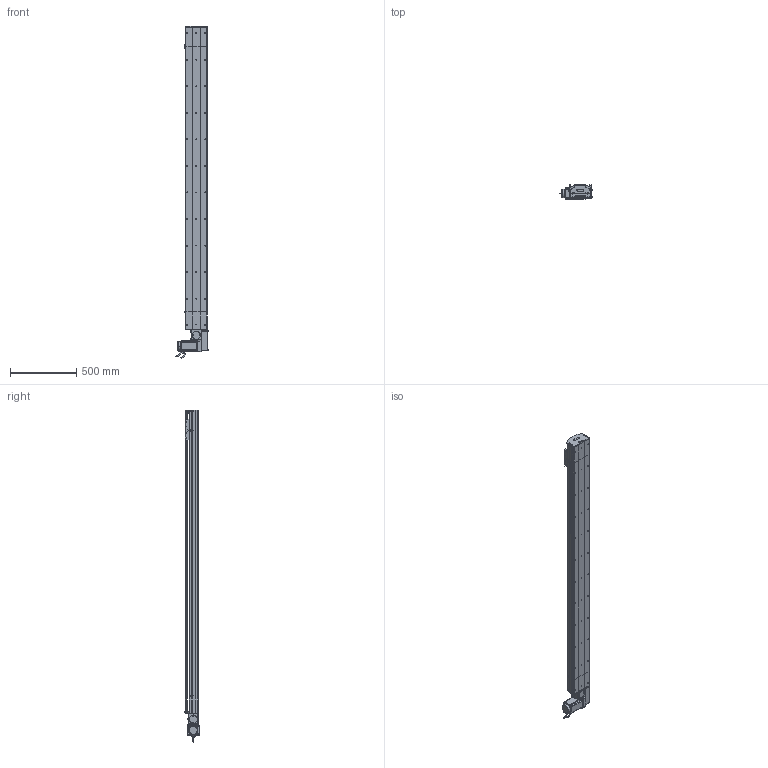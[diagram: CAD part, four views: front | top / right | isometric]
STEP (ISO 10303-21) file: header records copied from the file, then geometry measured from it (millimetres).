
FILE_DESCRIPTION (( 'STEP AP214' ), '1' );
FILE_NAME ('D17 TBH LH S2000.STEP', '2010-06-30T08:23:46', ( 'Christophe Gaillard' ), ( 'SGA' ), 'SwSTEP 2.0', 'SolidWorks 2010', '' );
FILE_SCHEMA (( 'AUTOMOTIVE_DESIGN' ));
Length unit declared in the file: millimetre
Products named in the file (40): corpl head D17 _Default; Head LH D17B_Default; couvercle D17B course L2000_Default; Couroie+ rail D17 Course 2000 ; corp D17B 2000_Default; course 2000 D17B_Default; vis M5 L12_Default; vis M5 L25_Default; vis M5 L8 90°_Default; couvercle D17B_Default; guide D17; Chariot D17; chariot D17S_Default; Couroie tail D17B_Default; poulie tail_Default; plaque de  bout tail D17B_Default; Rail D17B; Arbre+rail head D17B; plaque de  bout head D17B LH_Default; couvercle D17B head_Default; poulie head_Default; vis M5 L5_Default; cache D17_Default; Moteur motionking 90BLDC125A-640; Renvoi LH_Default; couroie head D17_Default; cache arbre D17_Default; codeur 90BLDC125-640; corps 90BLDC125A-640; avant 90BLDC125A-640; vis M5 L70_Default; Conecteur_Default; Conecteur2_Default; Vis M5 L16-2_Default; vis M5 L16_Default; Plaque racord D17_Default; tete d''axe poulie D17B; corpl tail D17B_Default; Tail D17B_Default; D17 TBH LH S2000
Assembly tree (70 placements, depth 4):
  D17 TBH LH S2000
    chariot D17S_Default
      vis M5 L12_Default  x4
      Chariot D17
      guide D17  x2
    Tail D17B_Default
      vis M5 L12_Default  x4
      couvercle D17B_Default
      Rail D17B
      corpl tail D17B_Default
      vis M5 L8 90°_Default  x2
      tete d''axe poulie D17B
      poulie tail_Default
      Couroie tail D17B_Default
      vis M5 L25_Default  x2
      plaque de  bout tail D17B_Default
    Head LH D17B_Default
      vis M5 L70_Default  x4
      vis M5 L12_Default  x8
      vis M5 L5_Default  x4
      vis M5 L25_Default  x2
      cache D17_Default  x2
      plaque de  bout head D17B LH_Default
      cache arbre D17_Default
      couvercle D17B head_Default
      Vis M5 L16-2_Default  x4
      Renvoi LH_Default
      vis M5 L16_Default  x2
      poulie head_Default
      corpl head D17 _Default
      Moteur motionking 90BLDC125A-640
        avant 90BLDC125A-640
        codeur 90BLDC125-640
        corps 90BLDC125A-640
        Conecteur_Default
        Conecteur2_Default
      Plaque racord D17_Default
      couroie head D17_Default
      Arbre+rail head D17B
    course 2000 D17B_Default
      corp D17B 2000_Default
      Couroie+ rail D17 Course 2000 
      couvercle D17B course L2000_Default
Bounding box: 245.2 x 105.65 x 2500.95 mm (x, y, z)
Volume: 14288744.8 mm3; surface area: 4103215.6 mm2
Topology: 94 solids, 94 shells, 2713 faces, 6865 edges, 4418 vertices
Faces by surface type: plane 1607, cylinder 793, bspline 136, cone 88, torus 85, sphere 4
Entity records: 85272 total; most frequent: CARTESIAN_POINT 25149, ORIENTED_EDGE 10502, DIRECTION 9964, EDGE_CURVE 5251, LINE 3470, VECTOR 3470, VERTEX_POINT 3442, AXIS2_PLACEMENT_3D 3247
